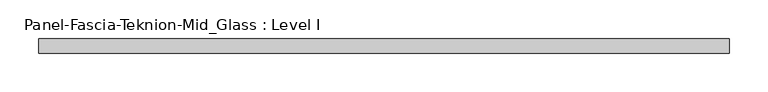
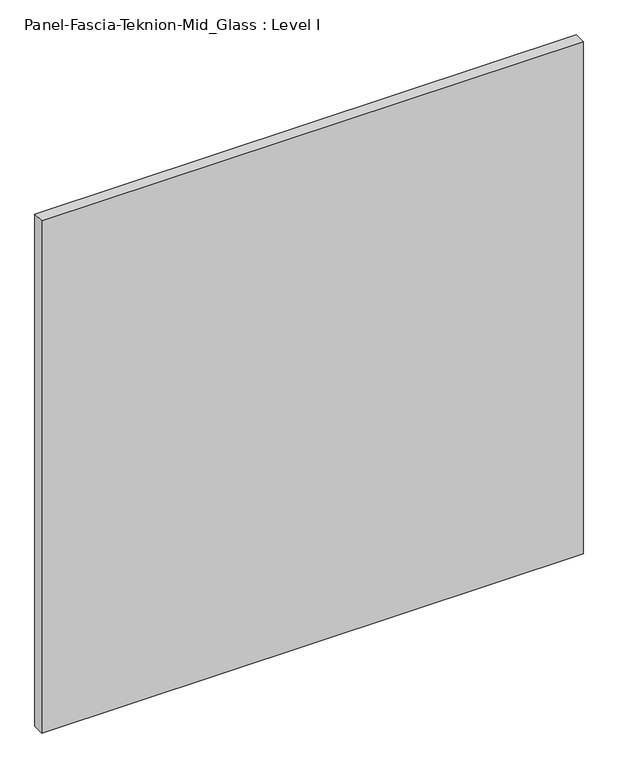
"""IFC4 building model written with IfcOpenShell, lengths in millimetres: proxy geometry, Panel-Fascia-Teknion-Mid_Glass : Level I."""

import ifcopenshell
import ifcopenshell.guid

model = None  # the IFC model being written
_history = None  # IfcOwnerHistory: only IFC2X3 demands one
_inside = {}  # id of a spatial element -> (the spatial element, [elements in it])
_under = {}  # id of a project, library or spatial element -> (it, [spatial elements below it])
_declared = {}  # id of a project -> (the project, [libraries it declares])
_typed = {}  # id of a type object -> (the type object, [elements of that type])
_made_of = {}  # id of a material, layer set ... -> (it, [elements and type objects made of it])


def new_model(schema):
    """Start an empty IFC model of exactly this schema.

    Asked for "IFC4X3", IfcOpenShell would pick the latest addendum, in which some entities
    have other attributes; the version numbers below select the first issue.
    IFC2X3 requires an IfcOwnerHistory on every rooted entity: one is made here for all.
    """
    global model, _history
    if schema == "IFC4X3":
        model = ifcopenshell.file(schema_version=(4, 3, 0, 0))
    else:
        model = ifcopenshell.file(schema=schema)
    _inside.clear()
    _under.clear()
    _declared.clear()
    _typed.clear()
    _made_of.clear()
    _history = None
    if model.schema == "IFC2X3":
        org = make("IfcOrganization", Name="unknown")
        user = make(
            "IfcPersonAndOrganization",
            ThePerson=make("IfcPerson", FamilyName="unknown"),
            TheOrganization=org,
        )
        app = make(
            "IfcApplication",
            ApplicationDeveloper=org,
            Version="unknown",
            ApplicationFullName="unknown",
            ApplicationIdentifier="unknown",
        )
        _history = make(
            "IfcOwnerHistory",
            OwningUser=user,
            OwningApplication=app,
            ChangeAction="ADDED",
            CreationDate=0,
        )
    return model


def make(cls, **values):
    """One entity of the class cls with the attributes given. An attribute that is None is left unset."""
    return model.create_entity(
        cls, **{name: value for name, value in values.items() if value is not None}
    )


def rooted(cls, **values):
    """An entity with a GlobalId (a new one), such as an element, a storey or a relation."""
    return make(cls, GlobalId=ifcopenshell.guid.new(), OwnerHistory=_history, **values)


def si_unit(unit_type, name, prefix=None):
    """IfcSIUnit, for example si_unit("LENGTHUNIT", "METRE", prefix="MILLI")."""
    return make("IfcSIUnit", UnitType=unit_type, Prefix=prefix, Name=name)


def assignment(units):
    """IfcUnitAssignment: the units of a project."""
    return None if units is None else make("IfcUnitAssignment", Units=units)


def point(xyz):
    """IfcCartesianPoint."""
    return None if xyz is None else make("IfcCartesianPoint", Coordinates=xyz)


def direction(xyz):
    """IfcDirection."""
    return None if xyz is None else make("IfcDirection", DirectionRatios=xyz)


def frame(location, z_axis=None, x_axis=None):
    """IfcAxis2Placement3D, a coordinate frame: its origin and axes. An axis left out is left unset."""
    return make(
        "IfcAxis2Placement3D",
        Location=point(location),
        Axis=direction(z_axis),
        RefDirection=direction(x_axis),
    )


def origin():
    """The frame at (0, 0, 0) with its axes left unset."""
    return frame((0.0, 0.0, 0.0))


def place(relative_to, where):
    """IfcLocalPlacement: puts the frame where relative to a parent placement (None: the world)."""
    return make(
        "IfcLocalPlacement", PlacementRelTo=relative_to, RelativePlacement=where
    )


def context(
    kind, dimensions, precision=None, world=None, true_north=None, identifier=None
):
    """IfcGeometricRepresentationContext, for example the 3D "Model" context."""
    return make(
        "IfcGeometricRepresentationContext",
        ContextIdentifier=identifier,
        ContextType=kind,
        CoordinateSpaceDimension=dimensions,
        Precision=precision,
        WorldCoordinateSystem=world,
        TrueNorth=true_north,
    )


def project(units=None, contexts=None):
    """IfcProject with its units and contexts."""
    return rooted(
        "IfcProject",
        Name="project",
        RepresentationContexts=contexts,
        UnitsInContext=assignment(units),
    )


def spatial(cls, under=None, at=None, **own):
    """A site, building, storey or space (cls), placed at a placement, below another one or the project."""
    s = rooted(cls, ObjectPlacement=at, **own)
    if under is not None:
        _under.setdefault(under.id(), (under, []))[1].append(s)
    return s


def polyline(points):
    """IfcPolyline through the points."""
    return make("IfcPolyline", Points=[point(p) for p in points])


def outline(outer, holes=None, kind="AREA"):
    """IfcArbitraryClosedProfileDef: a profile drawn as a closed curve; with holes, ...WithVoids."""
    if holes is None:
        return make("IfcArbitraryClosedProfileDef", ProfileType=kind, OuterCurve=outer)
    return make(
        "IfcArbitraryProfileDefWithVoids",
        ProfileType=kind,
        OuterCurve=outer,
        InnerCurves=holes,
    )


def extrude(swept, where, along, depth):
    """IfcExtrudedAreaSolid: the profile swept, set in the frame where, extruded along a direction by depth."""
    return make(
        "IfcExtrudedAreaSolid",
        SweptArea=swept,
        Position=where,
        ExtrudedDirection=direction(along),
        Depth=depth,
    )


def shape(context_of_items, identifier, shape_type, items):
    """IfcShapeRepresentation: the items that make up one representation, for example the "Body"."""
    return make(
        "IfcShapeRepresentation",
        ContextOfItems=context_of_items,
        RepresentationIdentifier=identifier,
        RepresentationType=shape_type,
        Items=items,
    )


def source(mapping_origin, context_of_items, identifier, shape_type, items):
    """IfcRepresentationMap: a shape defined once, which mapped items show again and again."""
    return make(
        "IfcRepresentationMap",
        MappingOrigin=mapping_origin,
        MappedRepresentation=shape(context_of_items, identifier, shape_type, items),
    )


def transform(
    local_origin,
    x_axis=None,
    y_axis=None,
    z_axis=None,
    scale=None,
    scale2=None,
    scale3=None,
    uniform=True,
):
    """IfcCartesianTransformationOperator3D, or its non-uniform kind. x_axis, y_axis, z_axis: its Axis1, 2, 3."""
    if uniform:
        return make(
            "IfcCartesianTransformationOperator3D",
            Axis1=direction(x_axis),
            Axis2=direction(y_axis),
            LocalOrigin=point(local_origin),
            Scale=scale,
            Axis3=direction(z_axis),
        )
    return make(
        "IfcCartesianTransformationOperator3DnonUniform",
        Axis1=direction(x_axis),
        Axis2=direction(y_axis),
        LocalOrigin=point(local_origin),
        Scale=scale,
        Axis3=direction(z_axis),
        Scale2=scale2,
        Scale3=scale3,
    )


def mapped(mapping_source, mapping_target):
    """IfcMappedItem: shows the shape of a source again, moved by a transform."""
    return make(
        "IfcMappedItem", MappingSource=mapping_source, MappingTarget=mapping_target
    )


def made_of(thing, what):
    """Note that an element or type object is made of a material, layer set ...; save() writes the relation."""
    if what is not None:
        _made_of.setdefault(what.id(), (what, []))[1].append(thing)
    return thing


def element(
    cls,
    number,
    at=None,
    inside=None,
    cuts=None,
    type_object=None,
    material=None,
    context=None,
    identifier="Body",
    shape_type=None,
    held_by="IfcProductDefinitionShape",
    body=None,
    shapes=None,
    **own,
):
    """One element of the class cls, such as IfcWall. Its Tag is "e" and its number.

    at: its placement. inside: the storey or other place that contains it. cuts: it is an
    opening in that element (IfcRelVoidsElement). A single representation is given by context,
    identifier, shape_type and body (its items); several are given by shapes. held_by: the class
    of the entity that holds the representations. save() writes the other relations.
    """
    e = rooted(cls, Tag="e%d" % number, ObjectPlacement=at, **own)
    if body is not None:
        shapes = [shape(context, identifier, shape_type, body)]
    if shapes is not None:
        e.Representation = make(held_by, Representations=shapes)
    if inside is not None:
        _inside.setdefault(inside.id(), (inside, []))[1].append(e)
    if cuts is not None:
        rooted(
            "IfcRelVoidsElement", RelatingBuildingElement=cuts, RelatedOpeningElement=e
        )
    if type_object is not None:
        _typed.setdefault(type_object.id(), (type_object, []))[1].append(e)
    return made_of(e, material)


def aggregate(whole, parts):
    """IfcRelAggregates: a whole, such as a stair, and the parts it consists of."""
    return rooted("IfcRelAggregates", RelatingObject=whole, RelatedObjects=parts)


def save(model, path):
    """Write the relations noted so far, then the file.

    IfcRelAggregates (storeys below a building ...), IfcRelContainedInSpatialStructure (elements
    in a storey), IfcRelDefinesByType, IfcRelAssociatesMaterial and IfcRelDeclares: one each for
    every whole, place, type object, material and project.
    """
    for whole, parts in _under.values():
        aggregate(whole, parts)
    for where, things in _inside.values():
        rooted(
            "IfcRelContainedInSpatialStructure",
            RelatedElements=things,
            RelatingStructure=where,
        )
    for kind, things in _typed.values():
        rooted("IfcRelDefinesByType", RelatedObjects=things, RelatingType=kind)
    for what, things in _made_of.values():
        rooted("IfcRelAssociatesMaterial", RelatedObjects=things, RelatingMaterial=what)
    for by, libraries in _declared.values():
        rooted("IfcRelDeclares", RelatingContext=by, RelatedDefinitions=libraries)
    model.write(path)


def panel_fascia_teknion_mid_glass_level_i_6372ec43(model_context):
    return source(origin(), model_context, "Body", "SweptSolid", [
        extrude(outline(polyline([(447.6253906, -9.525), (-447.6253906, -9.525), (-447.6253906, 9.525), (447.6253906, 9.525), (447.6253906, -9.525)])), frame((0.0, 0.0, 3.175), z_axis=(0.0, 0.0, 1.0), x_axis=(1.0, 0.0, 0.0)), (0.0, 0.0, 1.0), 895.35),
    ])


if __name__ == "__main__":
    model = new_model("IFC4")
    model_context = context("Model", 3, world=origin())
    ifc_project = project(units=[si_unit("LENGTHUNIT", "METRE", prefix="MILLI")], contexts=[model_context])
    site = spatial("IfcSite", under=ifc_project)
    building = spatial("IfcBuilding", under=site)
    placement = place(None, origin())
    panel_fascia_teknion_mid_glass_level_i_shape = panel_fascia_teknion_mid_glass_level_i_6372ec43(model_context)
    element("IfcBuildingElementProxy", 1, Name="Panel-Fascia-Teknion-Mid_Glass : Level I", ObjectType="Panel-Fascia-Teknion-Mid_Glass : Level I", at=placement, inside=building, context=model_context, shape_type="MappedRepresentation", body=[
        mapped(panel_fascia_teknion_mid_glass_level_i_shape, transform((0.0, 0.0, 0.0), x_axis=(1.0, 0.0, 0.0), y_axis=(0.0, 1.0, 0.0), z_axis=(0.0, 0.0, 1.0))),
    ])
    save(model, "model.ifc")
